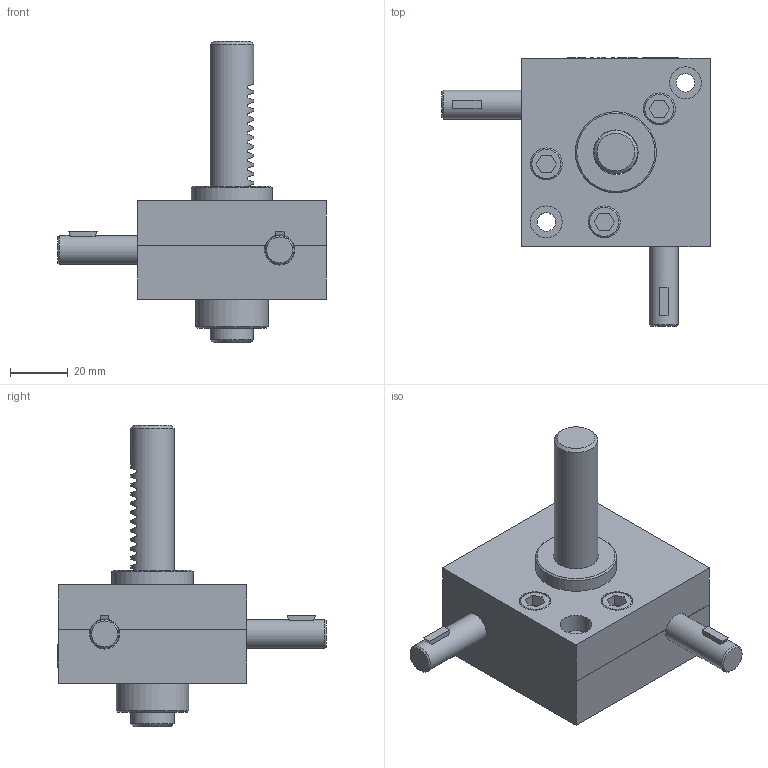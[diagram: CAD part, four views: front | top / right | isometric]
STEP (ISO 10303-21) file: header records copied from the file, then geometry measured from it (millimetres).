
FILE_DESCRIPTION(('STEP AP203'),'1');
FILE_NAME('SP100FU-500x500-100ST.stp','2022-06-15T02:41:47',(' '),(' '),'Spatial InterOp 3D',' ',' ');
FILE_SCHEMA(('CONFIG_CONTROL_DESIGN'));
Length unit declared in the file: millimetre
Products named in the file (13): SP1-100-50ST; Rack Gear(SP-100); Body-Part; Key; Bolt; Shaft(SP1-100); Gear Box(Lower); Gear Box(Upper); RJ05-4SCJ-610X600-100ST_CAP; LABEL-B.1; ___; 파트18; __
Assembly tree (16 placements, depth 6):
  SP1-100-50ST
    Rack Gear(SP-100)
    Body-Part
      Key  x2
      Bolt  x3
      Shaft(SP1-100)  x2
      Gear Box(Lower)
      Gear Box(Upper)
      __
        ___
          RJ05-4SCJ-610X600-100ST_CAP
            LABEL-B.1
          파트18
Bounding box: 92.5 x 92.7 x 104 mm (x, y, z)
Volume: 110472.7 mm3; surface area: 51842.9 mm2
Topology: 18 solids, 18 shells, 1909 faces, 5457 edges, 3630 vertices
Faces by surface type: plane 1814, cylinder 72, cone 18, torus 5
Full cylindrical faces by diameter (mm): 5 x6, 6 x1, 6.4 x7, 10 x2, 11 x8, 15 x1, 15.4 x2, 17 x2, 25 x1, 28 x1
Entity records: 60247 total; most frequent: CARTESIAN_POINT 10857, ORIENTED_EDGE 10526, DIRECTION 9270, EDGE_CURVE 5263, LINE 4994, VECTOR 4994, VERTEX_POINT 3528, AXIS2_PLACEMENT_3D 2138
